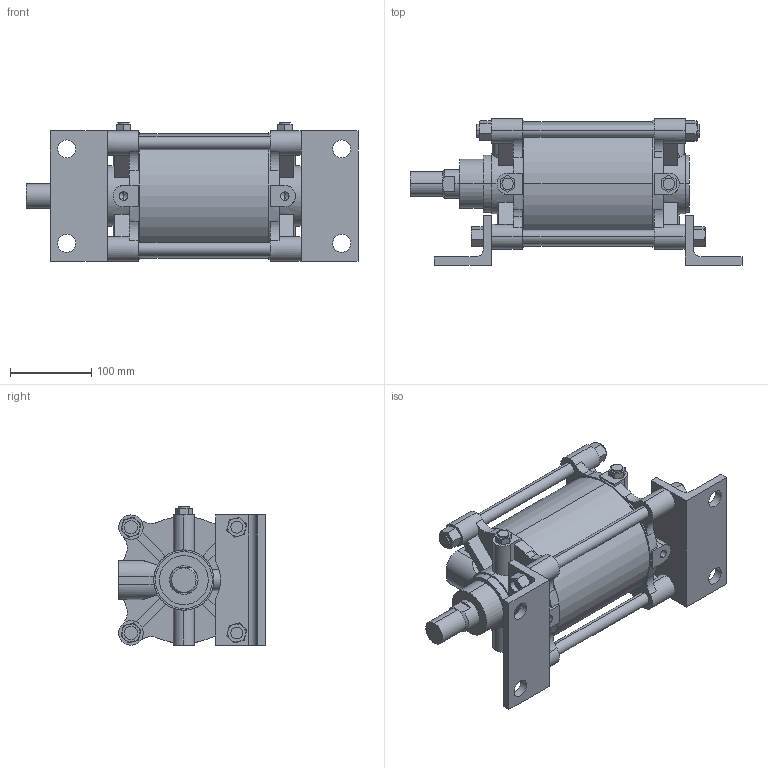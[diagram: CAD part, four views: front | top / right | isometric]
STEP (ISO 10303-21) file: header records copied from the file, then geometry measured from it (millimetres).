
FILE_DESCRIPTION (( 'STEP AP203' ), '1' );
FILE_NAME ('A##2-140#-100-L.STEP', '2016-03-31T06:53:46', ( '' ), ( '' ), 'SwSTEP 2.0', 'SolidWorks 2014', '' );
FILE_SCHEMA (( 'CONFIG_CONTROL_DESIGN' ));
Length unit declared in the file: millimetre
Products named in the file (7): A140-L; A##2-140#-100-L; A140-A; A140-100; A140-B
Assembly tree (17 placements, depth 2):
  A##2-140#-100-L
    A140-B
    A140-100
    A140-A
    (unnamed)  x8
    (unnamed)  x4
    A140-L  x2
Bounding box: 408 x 180 x 170 mm (x, y, z)
Volume: 4819732.2 mm3; surface area: 478112.1 mm2
Topology: 17 solids, 19 shells, 422 faces, 1068 edges, 684 vertices
Faces by surface type: plane 216, cylinder 144, torus 48, cone 14
Entity records: 10319 total; most frequent: CARTESIAN_POINT 2051, DIRECTION 1611, ORIENTED_EDGE 1470, EDGE_CURVE 735, AXIS2_PLACEMENT_3D 611, VERTEX_POINT 484, LINE 389, VECTOR 389
